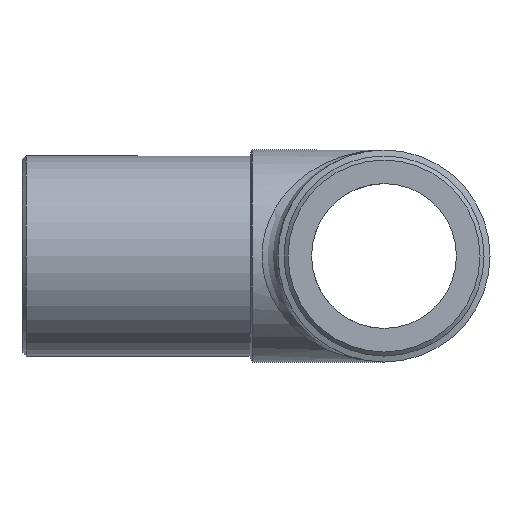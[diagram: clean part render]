
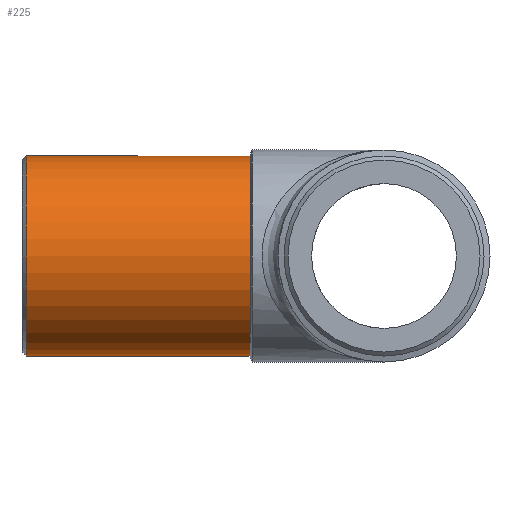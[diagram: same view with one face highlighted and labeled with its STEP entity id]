
A CAD part, left-side view. The second image highlights one B-rep face of the part: STEP entity #225.
In plain terms, the highlighted cylindrical face has radius 25 mm (diameter 50 mm), a full revolution.
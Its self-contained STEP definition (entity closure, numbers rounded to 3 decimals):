
#44=CIRCLE('',#275,25.);
#45=CIRCLE('',#277,25.);
#76=ORIENTED_EDGE('',*,*,#108,.T.);
#77=ORIENTED_EDGE('',*,*,#107,.F.);
#107=EDGE_CURVE('',#126,#126,#44,.T.);
#108=EDGE_CURVE('',#127,#127,#45,.F.);
#126=VERTEX_POINT('',#407);
#127=VERTEX_POINT('',#410);
#160=EDGE_LOOP('',(#76));
#161=EDGE_LOOP('',(#77));
#196=FACE_BOUND('',#160,.T.);
#197=FACE_BOUND('',#161,.T.);
#212=CYLINDRICAL_SURFACE('',#276,25.);
#225=ADVANCED_FACE('',(#196,#197),#212,.T.);
#275=AXIS2_PLACEMENT_3D('',#406,#345,#346);
#276=AXIS2_PLACEMENT_3D('',#408,#347,#348);
#277=AXIS2_PLACEMENT_3D('',#409,#349,#350);
#345=DIRECTION('',(0.,-1.,0.));
#346=DIRECTION('',(1.,0.,0.));
#347=DIRECTION('',(0.,-1.,0.));
#348=DIRECTION('',(1.,0.,0.));
#349=DIRECTION('',(0.,1.,0.));
#350=DIRECTION('',(-1.,0.,0.));
#406=CARTESIAN_POINT('',(0.,33.5,0.));
#407=CARTESIAN_POINT('',(25.,33.5,0.));
#408=CARTESIAN_POINT('',(0.,0.,0.));
#409=CARTESIAN_POINT('',(0.,89.5,0.));
#410=CARTESIAN_POINT('',(-25.,89.5,0.));
